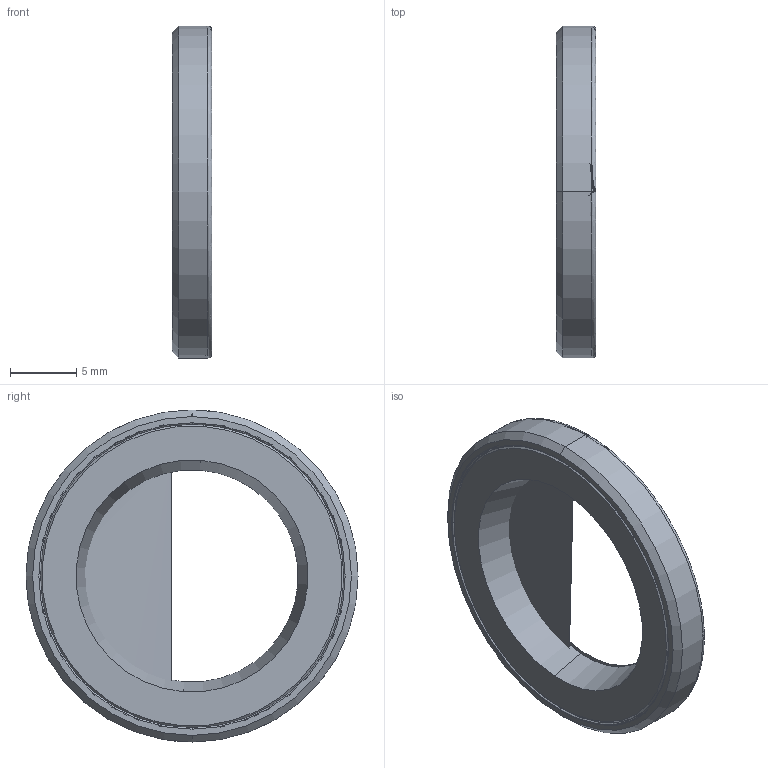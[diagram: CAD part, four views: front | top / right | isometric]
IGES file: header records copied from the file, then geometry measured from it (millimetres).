
Start section: 3D InterOp IGES (Version 21 0 1), Spatial Corp. Copyright (c) 1999-2007.
Global section: file name: DBX-16.igs; native system: Spatial Corp.; preprocessor: 3D InterOp GENERIC/IGES 3.0; author: Noname; organization: Noname; date: 20220216.143433; units: millimetre
Bounding box: 3 x 25 x 25 mm (x, y, z)
Surface area: 2280.6 mm2 (no closed solid volume)
Topology: 0 solids, 0 shells, 43 faces, 184 edges, 178 vertices
Faces by surface type: revolution 36, extrusion 7
